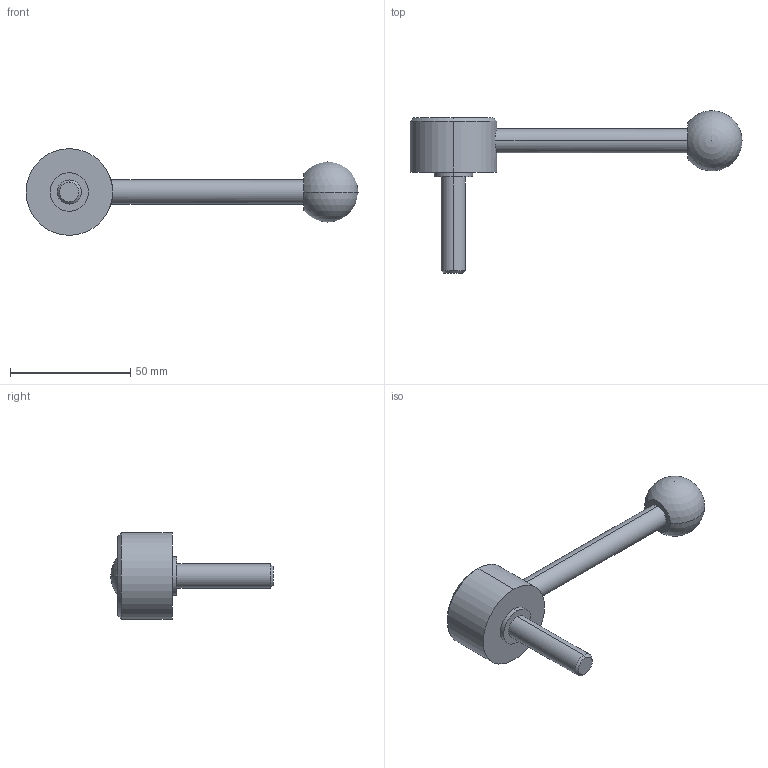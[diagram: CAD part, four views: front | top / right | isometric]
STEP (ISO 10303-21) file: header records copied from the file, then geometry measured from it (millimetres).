
FILE_DESCRIPTION (( 'STEP AP214' ), '1' );
FILE_NAME ('125.5-36-M10-40-D.step', '2020-02-18T11:30:08', ( '' ), ( '' ), 'SwSTEP 2.0', 'SolidWorks 2019', '' );
FILE_SCHEMA (( 'AUTOMOTIVE_DESIGN' ));
Length unit declared in the file: millimetre
Products named in the file (1): 125.5-36-M10-40-D
Bounding box: 138 x 67.5 x 36 mm (x, y, z)
Volume: 40613.7 mm3; surface area: 10122.4 mm2
Topology: 1 solids, 1 shells, 22 faces, 47 edges, 30 vertices
Faces by surface type: cylinder 10, plane 6, cone 4, sphere 2
Entity records: 738 total; most frequent: CARTESIAN_POINT 166, DIRECTION 112, ORIENTED_EDGE 84, AXIS2_PLACEMENT_3D 49, EDGE_CURVE 42, EDGE_LOOP 27, VERTEX_POINT 27, CIRCLE 26
